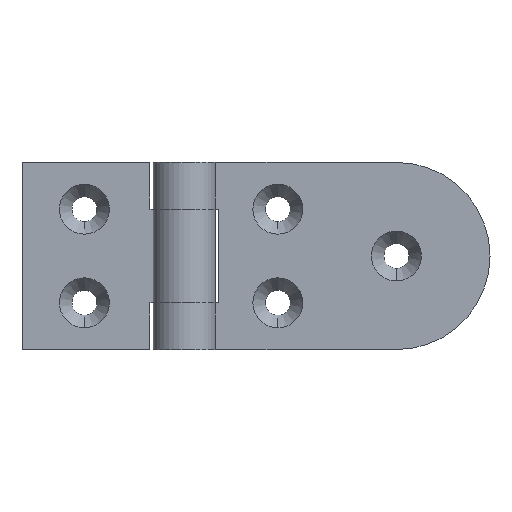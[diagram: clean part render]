
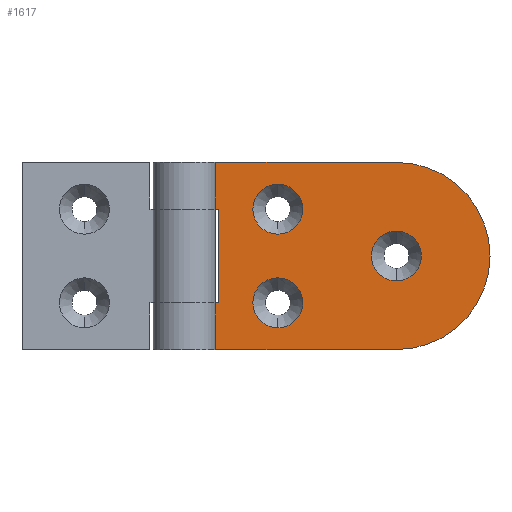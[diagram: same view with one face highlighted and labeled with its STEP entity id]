
A CAD part, front view. The second image highlights one B-rep face of the part: STEP entity #1617.
In plain terms, the highlighted planar face has unit normal (0, -1, 0).
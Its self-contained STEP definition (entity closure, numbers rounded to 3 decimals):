
#792=CARTESIAN_POINT('',(50.917,-27.013,15.));
#793=VERTEX_POINT('',#792);
#802=CARTESIAN_POINT('',(35.917,-27.013,0.));
#803=VERTEX_POINT('',#802);
#804=CARTESIAN_POINT('',(35.917,-27.013,15.));
#805=DIRECTION('',(0.0,-1.0,0.0));
#806=DIRECTION('',(1.0,0.0,0.0));
#807=AXIS2_PLACEMENT_3D('',#804,#805,#806);
#808=CIRCLE('',#807,15.0);
#809=EDGE_CURVE('',#803,#793,#808,.T.);
#970=CARTESIAN_POINT('',(6.5,-27.013,0.));
#971=VERTEX_POINT('',#970);
#979=CARTESIAN_POINT('',(6.5,-27.013,7.5));
#980=VERTEX_POINT('',#979);
#981=CARTESIAN_POINT('',(6.5,-27.013,7.5));
#982=DIRECTION('',(0.0,0.0,-1.0));
#983=VECTOR('',#982,7.5);
#984=LINE('',#981,#983);
#985=EDGE_CURVE('',#980,#971,#984,.T.);
#1054=CARTESIAN_POINT('',(6.5,-27.013,22.5));
#1055=VERTEX_POINT('',#1054);
#1063=CARTESIAN_POINT('',(6.5,-27.013,30.));
#1064=VERTEX_POINT('',#1063);
#1065=CARTESIAN_POINT('',(6.5,-27.013,30.));
#1066=DIRECTION('',(0.0,0.0,-1.0));
#1067=VECTOR('',#1066,7.5);
#1068=LINE('',#1065,#1067);
#1069=EDGE_CURVE('',#1064,#1055,#1068,.T.);
#1086=CARTESIAN_POINT('',(35.917,-27.013,19.));
#1087=VERTEX_POINT('',#1086);
#1096=CARTESIAN_POINT('',(35.917,-27.013,11.));
#1097=VERTEX_POINT('',#1096);
#1098=CARTESIAN_POINT('',(35.917,-27.013,15.));
#1099=DIRECTION('',(0.0,1.0,0.0));
#1100=DIRECTION('',(0.0,0.0,1.0));
#1101=AXIS2_PLACEMENT_3D('',#1098,#1099,#1100);
#1102=CIRCLE('',#1101,4.0);
#1103=EDGE_CURVE('',#1097,#1087,#1102,.T.);
#1128=CARTESIAN_POINT('',(16.917,-27.013,26.5));
#1129=VERTEX_POINT('',#1128);
#1138=CARTESIAN_POINT('',(16.917,-27.013,18.5));
#1139=VERTEX_POINT('',#1138);
#1140=CARTESIAN_POINT('',(16.917,-27.013,22.5));
#1141=DIRECTION('',(0.0,1.0,0.0));
#1142=DIRECTION('',(0.0,0.0,1.0));
#1143=AXIS2_PLACEMENT_3D('',#1140,#1141,#1142);
#1144=CIRCLE('',#1143,4.0);
#1145=EDGE_CURVE('',#1139,#1129,#1144,.T.);
#1170=CARTESIAN_POINT('',(16.917,-27.013,11.5));
#1171=VERTEX_POINT('',#1170);
#1180=CARTESIAN_POINT('',(16.917,-27.013,3.5));
#1181=VERTEX_POINT('',#1180);
#1182=CARTESIAN_POINT('',(16.917,-27.013,7.5));
#1183=DIRECTION('',(0.0,1.0,0.0));
#1184=DIRECTION('',(0.0,0.0,1.0));
#1185=AXIS2_PLACEMENT_3D('',#1182,#1183,#1184);
#1186=CIRCLE('',#1185,4.0);
#1187=EDGE_CURVE('',#1181,#1171,#1186,.T.);
#1221=CARTESIAN_POINT('',(16.917,-27.013,7.5));
#1222=DIRECTION('',(0.0,1.0,0.0));
#1223=DIRECTION('',(0.0,0.0,1.0));
#1224=AXIS2_PLACEMENT_3D('',#1221,#1222,#1223);
#1225=CIRCLE('',#1224,4.0);
#1226=EDGE_CURVE('',#1171,#1181,#1225,.T.);
#1245=CARTESIAN_POINT('',(16.917,-27.013,22.5));
#1246=DIRECTION('',(0.0,1.0,0.0));
#1247=DIRECTION('',(0.0,0.0,1.0));
#1248=AXIS2_PLACEMENT_3D('',#1245,#1246,#1247);
#1249=CIRCLE('',#1248,4.0);
#1250=EDGE_CURVE('',#1129,#1139,#1249,.T.);
#1269=CARTESIAN_POINT('',(35.917,-27.013,15.));
#1270=DIRECTION('',(0.0,1.0,0.0));
#1271=DIRECTION('',(0.0,0.0,1.0));
#1272=AXIS2_PLACEMENT_3D('',#1269,#1270,#1271);
#1273=CIRCLE('',#1272,4.0);
#1274=EDGE_CURVE('',#1087,#1097,#1273,.T.);
#1284=CARTESIAN_POINT('',(7.417,-27.013,7.5));
#1285=VERTEX_POINT('',#1284);
#1286=CARTESIAN_POINT('',(7.417,-27.013,7.5));
#1287=DIRECTION('',(-1.0,0.0,0.0));
#1288=VECTOR('',#1287,0.917);
#1289=LINE('',#1286,#1288);
#1290=EDGE_CURVE('',#1285,#980,#1289,.T.);
#1333=CARTESIAN_POINT('',(7.417,-27.013,22.5));
#1334=VERTEX_POINT('',#1333);
#1335=CARTESIAN_POINT('',(6.5,-27.013,22.5));
#1336=DIRECTION('',(1.0,0.0,0.0));
#1337=VECTOR('',#1336,0.917);
#1338=LINE('',#1335,#1337);
#1339=EDGE_CURVE('',#1055,#1334,#1338,.T.);
#1382=CARTESIAN_POINT('',(7.417,-27.013,22.5));
#1383=DIRECTION('',(0.0,0.0,-1.0));
#1384=VECTOR('',#1383,15.);
#1385=LINE('',#1382,#1384);
#1386=EDGE_CURVE('',#1334,#1285,#1385,.T.);
#1486=CARTESIAN_POINT('',(35.917,-27.013,30.));
#1487=VERTEX_POINT('',#1486);
#1494=CARTESIAN_POINT('',(35.917,-27.013,15.));
#1495=DIRECTION('',(0.0,-1.0,0.0));
#1496=DIRECTION('',(1.0,0.0,0.0));
#1497=AXIS2_PLACEMENT_3D('',#1494,#1495,#1496);
#1498=CIRCLE('',#1497,15.0);
#1499=EDGE_CURVE('',#793,#1487,#1498,.T.);
#1519=CARTESIAN_POINT('',(35.917,-27.013,30.));
#1520=DIRECTION('',(-1.0,0.0,0.0));
#1521=VECTOR('',#1520,29.417);
#1522=LINE('',#1519,#1521);
#1523=EDGE_CURVE('',#1487,#1064,#1522,.T.);
#1572=CARTESIAN_POINT('',(6.5,-27.013,0.));
#1573=DIRECTION('',(1.0,0.0,0.0));
#1574=VECTOR('',#1573,29.417);
#1575=LINE('',#1572,#1574);
#1576=EDGE_CURVE('',#971,#803,#1575,.T.);
#1589=CARTESIAN_POINT('',(26.417,-27.013,15.));
#1590=DIRECTION('',(0.0,-1.0,0.0));
#1591=DIRECTION('',(1.0,0.0,0.0));
#1592=AXIS2_PLACEMENT_3D('',#1589,#1590,#1591);
#1593=PLANE('',#1592);
#1594=ORIENTED_EDGE('',*,*,#1290,.T.);
#1595=ORIENTED_EDGE('',*,*,#985,.T.);
#1596=ORIENTED_EDGE('',*,*,#1576,.T.);
#1597=ORIENTED_EDGE('',*,*,#809,.T.);
#1598=ORIENTED_EDGE('',*,*,#1499,.T.);
#1599=ORIENTED_EDGE('',*,*,#1523,.T.);
#1600=ORIENTED_EDGE('',*,*,#1069,.T.);
#1601=ORIENTED_EDGE('',*,*,#1339,.T.);
#1602=ORIENTED_EDGE('',*,*,#1386,.T.);
#1603=EDGE_LOOP('',(#1594,#1595,#1596,#1597,#1598,#1599,#1600,#1601,#1602));
#1604=FACE_OUTER_BOUND('',#1603,.T.);
#1605=ORIENTED_EDGE('',*,*,#1226,.T.);
#1606=ORIENTED_EDGE('',*,*,#1187,.T.);
#1607=EDGE_LOOP('',(#1605,#1606));
#1608=FACE_BOUND('',#1607,.T.);
#1609=ORIENTED_EDGE('',*,*,#1250,.T.);
#1610=ORIENTED_EDGE('',*,*,#1145,.T.);
#1611=EDGE_LOOP('',(#1609,#1610));
#1612=FACE_BOUND('',#1611,.T.);
#1613=ORIENTED_EDGE('',*,*,#1274,.T.);
#1614=ORIENTED_EDGE('',*,*,#1103,.T.);
#1615=EDGE_LOOP('',(#1613,#1614));
#1616=FACE_BOUND('',#1615,.T.);
#1617=ADVANCED_FACE('',(#1604,#1608,#1612,#1616),#1593,.T.);
